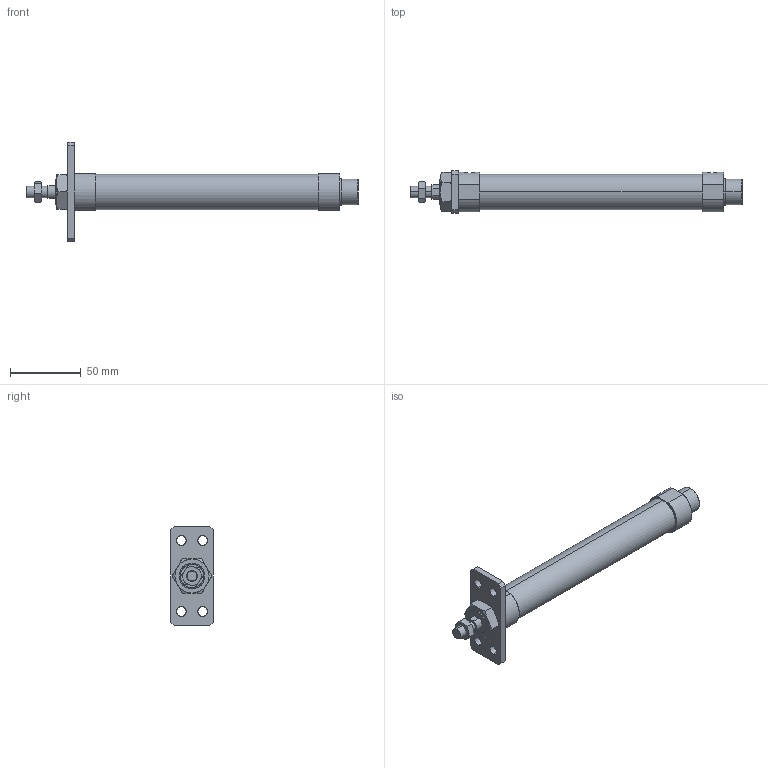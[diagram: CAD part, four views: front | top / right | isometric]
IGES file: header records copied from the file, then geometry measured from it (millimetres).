
Start section: SolidWorks IGES file using analytic representation for surfaces
Global section: file name: C:\Users\Toshiba\Desktop\J#2-20-125-A.IGS; native system: SolidWorks 2014; preprocessor: SolidWorks 2014; author: Toshiba; date: 160308.150314; units: millimetre
Bounding box: 234 x 30 x 70 mm (x, y, z)
Surface area: 26103.5 mm2 (no closed solid volume)
Topology: 0 solids, 0 shells, 112 faces, 2028 edges, 2028 vertices
Faces by surface type: bspline 70, revolution 42
